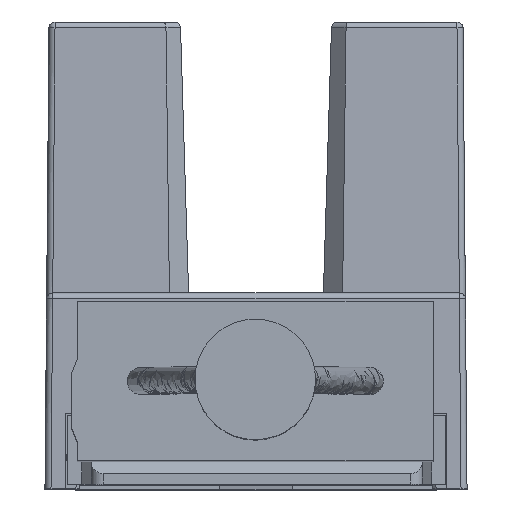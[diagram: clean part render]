
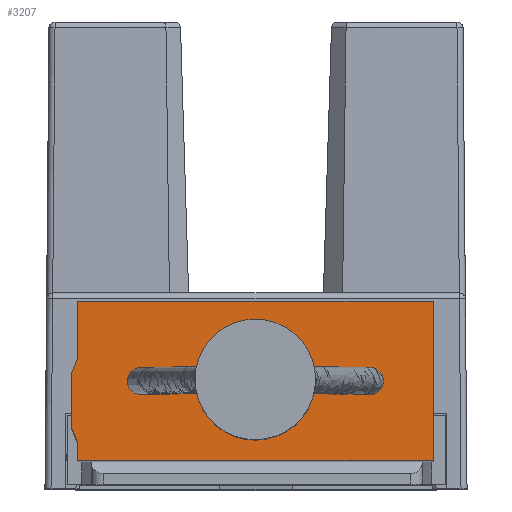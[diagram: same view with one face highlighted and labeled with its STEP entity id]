
A CAD part, top view. The second image highlights one B-rep face of the part: STEP entity #3207.
In plain terms, the highlighted planar face has unit normal (0, 0, 1).
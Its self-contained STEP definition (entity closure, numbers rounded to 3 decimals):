
#272=(
BOUNDED_CURVE()
B_SPLINE_CURVE(3,(#64463,#64464,#64465,#64466,#64467,#64468,#64469),
 .UNSPECIFIED.,.T.,.F.)
B_SPLINE_CURVE_WITH_KNOTS((1,3,3,3,1),(-0.5,0.,0.5,1.,1.5),
 .UNSPECIFIED.)
CURVE()
GEOMETRIC_REPRESENTATION_ITEM()
RATIONAL_B_SPLINE_CURVE((1.,0.333,0.333,1.,0.333,
0.333,1.))
REPRESENTATION_ITEM('')
);
#273=(
BOUNDED_CURVE()
B_SPLINE_CURVE(3,(#64489,#64490,#64491,#64492,#64493,#64494,#64495),
 .UNSPECIFIED.,.T.,.F.)
B_SPLINE_CURVE_WITH_KNOTS((1,3,3,3,1),(-0.5,0.,0.5,1.,1.5),
 .UNSPECIFIED.)
CURVE()
GEOMETRIC_REPRESENTATION_ITEM()
RATIONAL_B_SPLINE_CURVE((1.,0.333,0.333,1.,0.333,
0.333,1.))
REPRESENTATION_ITEM('')
);
#274=(
BOUNDED_CURVE()
B_SPLINE_CURVE(3,(#64497,#64498,#64499,#64500,#64501,#64502,#64503),
 .UNSPECIFIED.,.T.,.F.)
B_SPLINE_CURVE_WITH_KNOTS((1,3,3,3,1),(-0.5,0.,0.5,1.,1.5),
 .UNSPECIFIED.)
CURVE()
GEOMETRIC_REPRESENTATION_ITEM()
RATIONAL_B_SPLINE_CURVE((1.,0.333,0.333,1.,0.333,
0.333,1.))
REPRESENTATION_ITEM('')
);
#884=CIRCLE('',#28822,0.45);
#1097=FACE_BOUND('',#6478,.T.);
#1098=FACE_BOUND('',#6479,.T.);
#1099=FACE_BOUND('',#6480,.T.);
#1100=FACE_BOUND('',#6481,.T.);
#1101=FACE_BOUND('',#6482,.T.);
#1790=PLANE('',#28823);
#3207=ADVANCED_FACE('',(#1097,#1098,#1099,#1100,#1101),#1790,.T.);
#6478=EDGE_LOOP('',(#18347));
#6479=EDGE_LOOP('',(#18348));
#6480=EDGE_LOOP('',(#18349,#18350,#18351,#18352,#18353,#18354,#18355,#18356));
#6481=EDGE_LOOP('',(#18357));
#6482=EDGE_LOOP('',(#18358));
#8878=LINE('',#64473,#11615);
#8879=LINE('',#64476,#11616);
#8880=LINE('',#64478,#11617);
#8881=LINE('',#64480,#11618);
#8882=LINE('',#64482,#11619);
#8883=LINE('',#64484,#11620);
#8884=LINE('',#64486,#11621);
#8885=LINE('',#64488,#11622);
#11615=VECTOR('',#33659,1.);
#11616=VECTOR('',#33660,1.);
#11617=VECTOR('',#33661,1.);
#11618=VECTOR('',#33662,1.);
#11619=VECTOR('',#33663,1.);
#11620=VECTOR('',#33664,1.);
#11621=VECTOR('',#33665,1.);
#11622=VECTOR('',#33666,1.);
#18347=ORIENTED_EDGE('',*,*,#25894,.F.);
#18348=ORIENTED_EDGE('',*,*,#25895,.F.);
#18349=ORIENTED_EDGE('',*,*,#25896,.F.);
#18350=ORIENTED_EDGE('',*,*,#25897,.F.);
#18351=ORIENTED_EDGE('',*,*,#25898,.F.);
#18352=ORIENTED_EDGE('',*,*,#25899,.F.);
#18353=ORIENTED_EDGE('',*,*,#25900,.F.);
#18354=ORIENTED_EDGE('',*,*,#25901,.F.);
#18355=ORIENTED_EDGE('',*,*,#25902,.F.);
#18356=ORIENTED_EDGE('',*,*,#25903,.F.);
#18357=ORIENTED_EDGE('',*,*,#25904,.F.);
#18358=ORIENTED_EDGE('',*,*,#25905,.F.);
#22263=VERTEX_POINT('',#64470);
#22264=VERTEX_POINT('',#64472);
#22265=VERTEX_POINT('',#64474);
#22266=VERTEX_POINT('',#64475);
#22267=VERTEX_POINT('',#64477);
#22268=VERTEX_POINT('',#64479);
#22269=VERTEX_POINT('',#64481);
#22270=VERTEX_POINT('',#64483);
#22271=VERTEX_POINT('',#64485);
#22272=VERTEX_POINT('',#64487);
#22273=VERTEX_POINT('',#64496);
#22274=VERTEX_POINT('',#64504);
#25894=EDGE_CURVE('',#22263,#22263,#272,.T.);
#25895=EDGE_CURVE('',#22264,#22264,#884,.T.);
#25896=EDGE_CURVE('',#22265,#22266,#8878,.T.);
#25897=EDGE_CURVE('',#22267,#22265,#8879,.T.);
#25898=EDGE_CURVE('',#22268,#22267,#8880,.T.);
#25899=EDGE_CURVE('',#22269,#22268,#8881,.T.);
#25900=EDGE_CURVE('',#22270,#22269,#8882,.T.);
#25901=EDGE_CURVE('',#22271,#22270,#8883,.T.);
#25902=EDGE_CURVE('',#22272,#22271,#8884,.T.);
#25903=EDGE_CURVE('',#22266,#22272,#8885,.T.);
#25904=EDGE_CURVE('',#22273,#22273,#273,.T.);
#25905=EDGE_CURVE('',#22274,#22274,#274,.T.);
#28822=AXIS2_PLACEMENT_3D('',#64471,#33657,#33658);
#28823=AXIS2_PLACEMENT_3D('',#64505,#33667,#33668);
#33657=DIRECTION('',(0.,0.,1.));
#33658=DIRECTION('',(0.,1.,0.));
#33659=DIRECTION('',(1.,0.,0.));
#33660=DIRECTION('',(0.,1.,0.));
#33661=DIRECTION('',(0.371,0.928,0.));
#33662=DIRECTION('',(0.,1.,0.));
#33663=DIRECTION('',(-0.371,0.928,0.));
#33664=DIRECTION('',(0.,1.,0.));
#33665=DIRECTION('',(-1.,0.,0.));
#33666=DIRECTION('',(0.,-1.,0.));
#33667=DIRECTION('',(0.,0.,1.));
#33668=DIRECTION('',(0.,1.,0.));
#64463=CARTESIAN_POINT('',(1.45,-8.6,27.2));
#64464=CARTESIAN_POINT('',(0.55,-8.6,27.2));
#64465=CARTESIAN_POINT('',(0.55,-9.5,27.2));
#64466=CARTESIAN_POINT('',(1.45,-9.5,27.2));
#64467=CARTESIAN_POINT('',(2.35,-9.5,27.2));
#64468=CARTESIAN_POINT('',(2.35,-8.6,27.2));
#64469=CARTESIAN_POINT('',(1.45,-8.6,27.2));
#64470=CARTESIAN_POINT('',(1.45,-8.6,27.2));
#64471=CARTESIAN_POINT('',(3.75,-9.05,27.2));
#64472=CARTESIAN_POINT('',(3.75,-8.6,27.2));
#64473=CARTESIAN_POINT('',(5.85,-6.4,27.2));
#64474=CARTESIAN_POINT('',(-5.95,-6.4,27.2));
#64475=CARTESIAN_POINT('',(5.85,-6.4,27.2));
#64476=CARTESIAN_POINT('',(-5.95,-6.4,27.2));
#64477=CARTESIAN_POINT('',(-5.95,-8.3,27.2));
#64478=CARTESIAN_POINT('',(-6.15,-8.8,27.2));
#64479=CARTESIAN_POINT('',(-6.15,-8.8,27.2));
#64480=CARTESIAN_POINT('',(-6.15,-8.8,27.2));
#64481=CARTESIAN_POINT('',(-6.15,-10.6,27.2));
#64482=CARTESIAN_POINT('',(-6.15,-10.6,27.2));
#64483=CARTESIAN_POINT('',(-5.95,-11.1,27.2));
#64484=CARTESIAN_POINT('',(-5.95,-11.1,27.2));
#64485=CARTESIAN_POINT('',(-5.95,-11.7,27.2));
#64486=CARTESIAN_POINT('',(5.85,-11.7,27.2));
#64487=CARTESIAN_POINT('',(5.85,-11.7,27.2));
#64488=CARTESIAN_POINT('',(5.85,-6.4,27.2));
#64489=CARTESIAN_POINT('',(-3.85,-8.6,27.2));
#64490=CARTESIAN_POINT('',(-4.75,-8.6,27.2));
#64491=CARTESIAN_POINT('',(-4.75,-9.5,27.2));
#64492=CARTESIAN_POINT('',(-3.85,-9.5,27.2));
#64493=CARTESIAN_POINT('',(-2.95,-9.5,27.2));
#64494=CARTESIAN_POINT('',(-2.95,-8.6,27.2));
#64495=CARTESIAN_POINT('',(-3.85,-8.6,27.2));
#64496=CARTESIAN_POINT('',(-3.85,-8.6,27.2));
#64497=CARTESIAN_POINT('',(-1.55,-8.6,27.2));
#64498=CARTESIAN_POINT('',(-2.45,-8.6,27.2));
#64499=CARTESIAN_POINT('',(-2.45,-9.5,27.2));
#64500=CARTESIAN_POINT('',(-1.55,-9.5,27.2));
#64501=CARTESIAN_POINT('',(-0.65,-9.5,27.2));
#64502=CARTESIAN_POINT('',(-0.65,-8.6,27.2));
#64503=CARTESIAN_POINT('',(-1.55,-8.6,27.2));
#64504=CARTESIAN_POINT('',(-1.55,-8.6,27.2));
#64505=CARTESIAN_POINT('',(5.85,-6.4,27.2));
